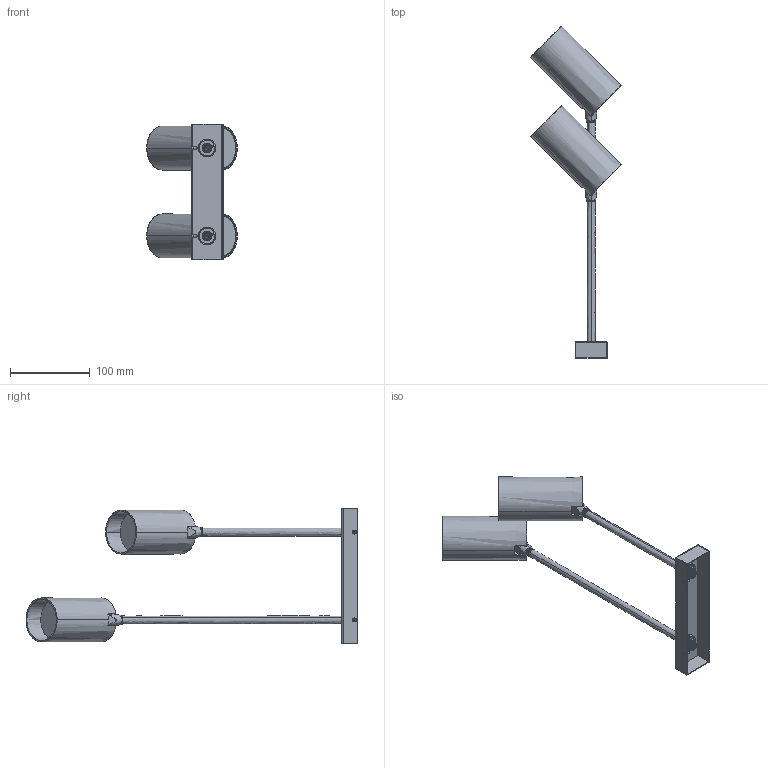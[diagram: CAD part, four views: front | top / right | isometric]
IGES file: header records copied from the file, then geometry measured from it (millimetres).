
Start section: SolidWorks IGES file using analytic representation for surfaces
Global section: file name: Z:\Modele 3D_WWW\_KOLEKCJE_WWW\MONO\MONO-BELKA-LONG\MONO-LONG-II-7726-7730\MONO-LONG-II-7726-7730.IGS; native system: SolidWorks 2021; preprocessor: SolidWorks 2021; author: gabriela.tworek; date: 210727.075020; units: millimetre
Bounding box: 113.14 x 415.32 x 170 mm (x, y, z)
Surface area: 158404.7 mm2 (no closed solid volume)
Topology: 0 solids, 0 shells, 530 faces, 9688 edges, 9684 vertices
Faces by surface type: revolution 350, bspline 180
